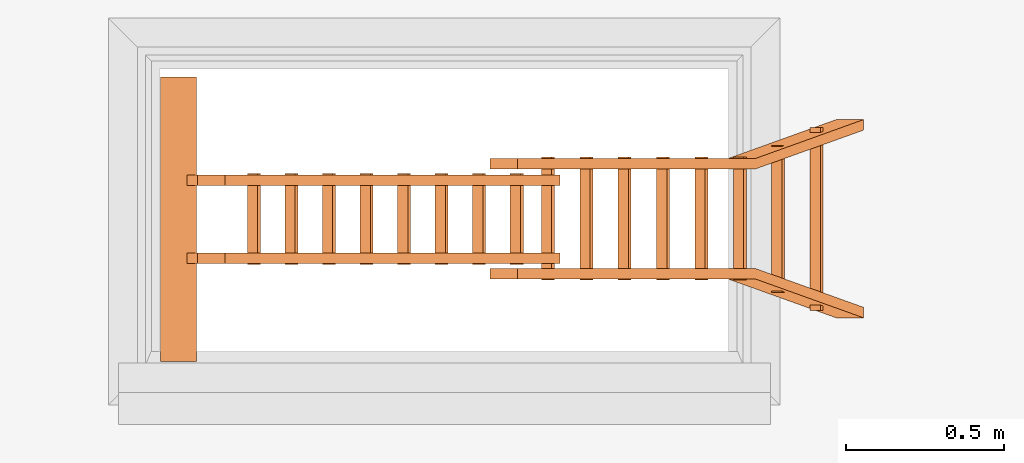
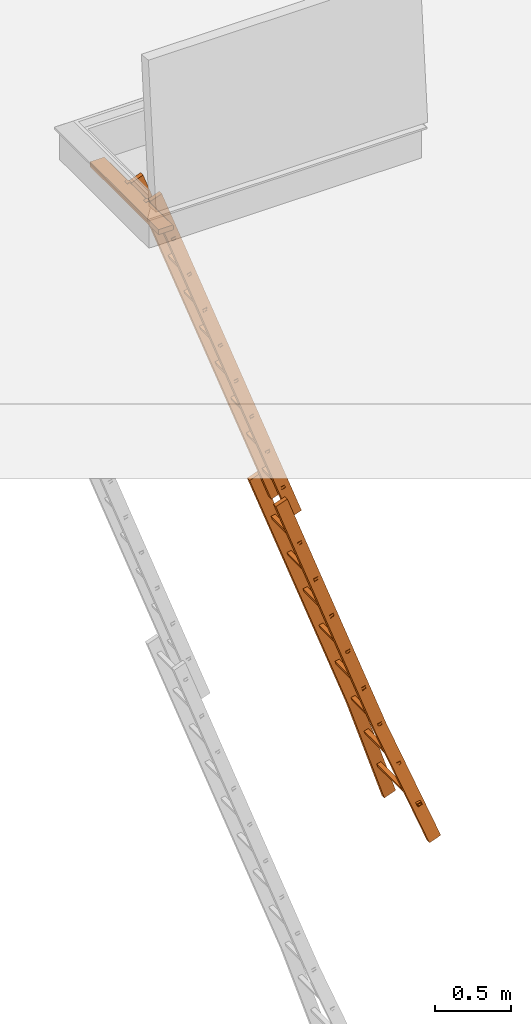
# One storey, part 2 of 28: 1 proxy, 2 openings.
"""IFC2X3 building model written with IfcOpenShell, lengths in millimetres."""

from ifc_helpers import new_model, entity, si_unit, converted_unit, derived_unit, direction, frame, frame_2d, origin, origin_2d_with_axis, place, context, subcontext, project, spatial, polyline, circle_curve, parameter, trimmed, segment, composite_curve, rectangle, outline, extrude, source, transform, mapped, type_object, type_shapes, element, save


model = new_model("IFC2X3")

# Units and contexts
model_context = context("Model", 3, precision=0.01, world=origin(), true_north=direction((6.12303176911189e-17, 1.0)))
body_context = subcontext(model_context, "Body", "Model", "MODEL_VIEW")
ifc_project = project(units=[si_unit("LENGTHUNIT", "METRE", prefix="MILLI"), si_unit("AREAUNIT", "SQUARE_METRE"), si_unit("VOLUMEUNIT", "CUBIC_METRE"), converted_unit("PLANEANGLEUNIT", "DEGREE", entity("IfcRatioMeasure", 0.0174532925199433), si_unit("PLANEANGLEUNIT", "RADIAN"), dimensions=[0, 0, 0, 0, 0, 0, 0]), si_unit("MASSUNIT", "GRAM", prefix="KILO"), derived_unit("MASSDENSITYUNIT", [(si_unit("MASSUNIT", "GRAM", prefix="KILO"), 1), (si_unit("LENGTHUNIT", "METRE"), -3)]), si_unit("TIMEUNIT", "SECOND"), si_unit("FREQUENCYUNIT", "HERTZ"), si_unit("THERMODYNAMICTEMPERATUREUNIT", "DEGREE_CELSIUS"), derived_unit("THERMALTRANSMITTANCEUNIT", [(si_unit("MASSUNIT", "GRAM", prefix="KILO"), 1), (si_unit("THERMODYNAMICTEMPERATUREUNIT", "KELVIN"), -1), (si_unit("TIMEUNIT", "SECOND"), -3)]), derived_unit("VOLUMETRICFLOWRATEUNIT", [(si_unit("LENGTHUNIT", "METRE"), 3), (si_unit("TIMEUNIT", "SECOND"), -1)]), si_unit("ELECTRICCURRENTUNIT", "AMPERE"), si_unit("ELECTRICVOLTAGEUNIT", "VOLT"), si_unit("POWERUNIT", "WATT"), si_unit("FORCEUNIT", "NEWTON", prefix="KILO"), si_unit("ILLUMINANCEUNIT", "LUX"), si_unit("LUMINOUSFLUXUNIT", "LUMEN"), si_unit("LUMINOUSINTENSITYUNIT", "CANDELA"), derived_unit("USERDEFINED", [(si_unit("MASSUNIT", "GRAM", prefix="KILO"), -1), (si_unit("LENGTHUNIT", "METRE"), -2), (si_unit("TIMEUNIT", "SECOND"), 3), (si_unit("LUMINOUSFLUXUNIT", "LUMEN"), 1)]), derived_unit("LINEARVELOCITYUNIT", [(si_unit("LENGTHUNIT", "METRE"), 1), (si_unit("TIMEUNIT", "SECOND"), -1)]), si_unit("PRESSUREUNIT", "PASCAL"), derived_unit("USERDEFINED", [(si_unit("LENGTHUNIT", "METRE"), -2), (si_unit("MASSUNIT", "GRAM", prefix="KILO"), 1), (si_unit("TIMEUNIT", "SECOND"), -2)])], contexts=[model_context])

# Site, building, storey
site_placement = place(None, origin())
site = spatial("IfcSite", under=ifc_project, at=site_placement, Name="Default", CompositionType="ELEMENT")
building_placement = place(site_placement, origin())
building = spatial("IfcBuilding", under=site, at=building_placement, CompositionType="ELEMENT")
storey_placement = place(building_placement, frame((0.0, 0.0, 4000.0)))
storey = spatial("IfcBuildingStorey", under=building, at=storey_placement, Name="Level 2", CompositionType="ELEMENT", Elevation=4000.0)

# Proxy, openings
building_element_proxy_type = type_object("IfcBuildingElementProxyType", Name="9_Topaccess_Trap_2delige1", PredefinedType="NOTDEFINED")
shared_shape = source(origin(), body_context, "Body", "SweptSolid", [
    extrude(outline(composite_curve([segment(polyline([(-20.0, -72.7589570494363), (20.0, -72.7589570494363)]), True, "CONTINUOUS"), segment(polyline([(20.0, -72.7589570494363), (20.0, 31.9980683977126)]), True, "CONTINUOUS"), segment(trimmed(circle_curve(frame_2d((10.2609571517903, 30.9957536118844), x_axis=(0.939692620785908, -0.342020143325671)), 9.79048469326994), [parameter(25.876031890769)], [parameter(105.876031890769)], True, "PARAMETER"), True, "CONTINUOUS"), segment(polyline([(10.9650368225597, 40.760888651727), (-10.9650368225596, 40.760888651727)]), True, "CONTINUOUS"), segment(trimmed(circle_curve(frame_2d((-10.2609571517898, 30.9957536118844), x_axis=(0.939692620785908, -0.342020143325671)), 9.79048469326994), [parameter(114.123968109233)], [parameter(194.123968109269)], True, "PARAMETER"), True, "CONTINUOUS"), segment(polyline([(-20.0, 31.9980683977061), (-20.0, -72.7589570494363)]), True, "CONTINUOUS")], self_intersect=False)), frame((-484.291584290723, -2.37763803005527, 9.64187826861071), z_axis=(1.0, 0.0, 0.0), x_axis=(0.0, 0.939692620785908, 0.34202014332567)), (0.0, 0.0, 1.0), 900.0),
    extrude(outline(composite_curve([segment(polyline([(-21.0941155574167, -85.4663572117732), (-18.0941155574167, -85.4663572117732)]), True, "CONTINUOUS"), segment(polyline([(-18.0941155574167, -85.4663572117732), (-18.0941155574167, 34.533772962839)]), True, "CONTINUOUS"), segment(trimmed(circle_curve(frame_2d((0.281515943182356, 34.5337729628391), x_axis=(0.0, 1.0)), 18.3756315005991), [parameter(284.219953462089)], [parameter(90.0000000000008)], True, "PARAMETER"), False, "CONTINUOUS"), segment(polyline([(18.0941155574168, 39.047654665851), (18.0941155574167, 11.7050015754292)]), True, "CONTINUOUS"), segment(polyline([(18.0941155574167, 11.7050015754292), (21.0941155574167, 11.7050015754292)]), True, "CONTINUOUS"), segment(polyline([(21.0941155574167, 11.7050015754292), (21.0941155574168, 39.4075106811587)]), True, "CONTINUOUS"), segment(trimmed(circle_curve(frame_2d((0.281515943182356, 34.5337729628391), x_axis=(0.0, 1.0)), 21.3756315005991), [parameter(283.179609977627)], [parameter(89.9999999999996)], True, "PARAMETER"), True, "CONTINUOUS"), segment(polyline([(-21.0941155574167, 34.5337729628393), (-21.0941155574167, -85.4663572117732)]), True, "CONTINUOUS")], self_intersect=False)), frame((72.0, -40.2373925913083, 36.9030783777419), z_axis=(1.0, 0.0, 0.0), x_axis=(0.0, 0.0, -1.0)), (0.0, 0.0, 1.0), 33.0),
    extrude(outline(composite_curve([segment(polyline([(-34.5337729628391, -21.0941155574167), (85.4663572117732, -21.0941155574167)]), True, "CONTINUOUS"), segment(polyline([(85.4663572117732, -21.0941155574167), (85.4663572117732, -18.0941155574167)]), True, "CONTINUOUS"), segment(polyline([(85.4663572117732, -18.0941155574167), (-34.5337729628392, -18.0941155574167)]), True, "CONTINUOUS"), segment(trimmed(circle_curve(frame_2d((-34.5337729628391, 0.281515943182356), x_axis=(-1.0, 0.0)), 18.3756315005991), [parameter(284.219953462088)], [parameter(90.0)], True, "PARAMETER"), False, "CONTINUOUS"), segment(polyline([(-39.047654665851, 18.0941155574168), (-11.7050015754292, 18.0941155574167)]), True, "CONTINUOUS"), segment(polyline([(-11.7050015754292, 18.0941155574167), (-11.7050015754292, 21.0941155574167)]), True, "CONTINUOUS"), segment(polyline([(-11.7050015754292, 21.0941155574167), (-39.407510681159, 21.0941155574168)]), True, "CONTINUOUS"), segment(trimmed(circle_curve(frame_2d((-34.5337729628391, 0.281515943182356), x_axis=(-1.0, 0.0)), 21.3756315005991), [parameter(283.179609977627)], [parameter(89.9999999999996)], True, "PARAMETER"), True, "CONTINUOUS")], self_intersect=False)), frame((-175.0, -40.2373925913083, 36.9030783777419), z_axis=(1.0, 0.0, 0.0), x_axis=(0.0, -1.0, 0.0)), (0.0, 0.0, 1.0), 33.0000000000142),
    extrude(rectangle(XDim=33.0000000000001, YDim=3099.99999999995, at=frame_2d((-3.30000000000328, 283.551511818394), x_axis=(1.0, 0.0))), frame((85.2, -1266.44848818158, 58.0), z_axis=(0.0, 0.0, 1.0), x_axis=(-1.0, 0.0, 0.0)), (0.0, 0.0, 1.0), 92.0),
    extrude(rectangle(XDim=3099.99999999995, YDim=33.0000000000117, at=frame_2d((-283.551511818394, 3.30000000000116), x_axis=(1.0, 0.0))), frame((-155.19999999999, -1266.44848818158, 58.0), z_axis=(0.0, 0.0, 1.0), x_axis=(0.0, 1.0, 0.0)), (0.0, 0.0, 1.0), 92.0),
    extrude(outline(polyline([(-11.5216143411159, -16.5000000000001), (13.8405381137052, -16.5000000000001), (13.8405381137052, 16.5), (-16.1594618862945, 16.5000000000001), (-11.5216143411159, -16.5000000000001)]), holes=[polyline([(8.84053811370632, -11.5000000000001), (-7.1751806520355, -11.5000000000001), (-10.4076198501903, 11.5000000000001), (8.84053811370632, 11.5), (8.84053811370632, -11.5000000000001)])]), frame((-227.077291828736, -3293.01909964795, 39.0843884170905), z_axis=(1.0, 0.0, 0.0), x_axis=(0.0, -1.0, 0.0)), (0.0, 0.0, 1.0), 389.077291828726),
    extrude(outline(polyline([(-11.5216143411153, -16.5000000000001), (13.8405381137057, -16.5000000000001), (13.8405381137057, 16.5), (-16.159461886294, 16.5000000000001), (-11.5216143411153, -16.5000000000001)]), holes=[polyline([(8.84053811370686, -11.5000000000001), (-7.17518065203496, -11.5000000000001), (-10.4076198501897, 11.5000000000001), (8.84053811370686, 11.5), (8.84053811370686, -11.5000000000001)])]), frame((-227.077291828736, -3648.01909964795, 39.0843884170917), z_axis=(1.0, 0.0, 0.0), x_axis=(0.0, -1.0, 0.0)), (0.0, 0.0, 1.0), 389.077291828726),
    extrude(outline(polyline([(-11.5216143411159, -16.5000000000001), (13.8405381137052, -16.5000000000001), (13.8405381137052, 16.5), (-16.1594618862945, 16.5000000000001), (-11.5216143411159, -16.5000000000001)]), holes=[polyline([(8.84053811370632, -11.5000000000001), (-7.1751806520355, -11.5000000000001), (-10.4076198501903, 11.5000000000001), (8.84053811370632, 11.5), (8.84053811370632, -11.5000000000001)])]), frame((-227.077291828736, -4003.01909964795, 39.0843884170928), z_axis=(1.0, 0.0, 0.0), x_axis=(0.0, -1.0, 0.0)), (0.0, 0.0, 1.0), 389.077291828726),
    extrude(outline(polyline([(-11.5216143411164, -16.5000000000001), (13.8405381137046, -16.5000000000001), (13.8405381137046, 16.5), (-16.159461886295, 16.5000000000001), (-11.5216143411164, -16.5000000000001)]), holes=[polyline([(8.84053811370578, -11.5000000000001), (-7.17518065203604, -11.5000000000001), (-10.4076198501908, 11.5000000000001), (8.84053811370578, 11.5), (8.84053811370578, -11.5000000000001)])]), frame((-227.077291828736, -4358.01909964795, 39.0843884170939), z_axis=(1.0, 0.0, 0.0), x_axis=(0.0, -1.0, 0.0)), (0.0, 0.0, 1.0), 389.077291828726),
    extrude(outline(polyline([(-11.5216143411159, -16.5000000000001), (13.8405381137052, -16.5000000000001), (13.8405381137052, 16.5), (-16.1594618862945, 16.5000000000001), (-11.5216143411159, -16.5000000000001)]), holes=[polyline([(8.84053811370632, -11.5000000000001), (-7.1751806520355, -11.5000000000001), (-10.4076198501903, 11.5000000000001), (8.84053811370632, 11.5), (8.84053811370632, -11.5000000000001)])]), frame((-227.077291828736, -4713.01909964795, 39.0843884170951), z_axis=(1.0, 0.0, 0.0), x_axis=(0.0, -1.0, 0.0)), (0.0, 0.0, 1.0), 389.077291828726),
    extrude(outline(polyline([(-11.5216143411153, -16.5000000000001), (13.8405381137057, -16.5000000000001), (13.8405381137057, 16.5), (-16.159461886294, 16.5000000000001), (-11.5216143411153, -16.5000000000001)]), holes=[polyline([(8.84053811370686, -11.5000000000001), (-7.17518065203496, -11.5000000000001), (-10.4076198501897, 11.5000000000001), (8.84053811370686, 11.5), (8.84053811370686, -11.5000000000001)])]), frame((-227.077291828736, -5068.01909964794, 39.0843884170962), z_axis=(1.0, 0.0, 0.0), x_axis=(0.0, -1.0, 0.0)), (0.0, 0.0, 1.0), 389.077291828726),
    extrude(outline(polyline([(-11.5216143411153, -16.5000000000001), (13.8405381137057, -16.5000000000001), (13.8405381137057, 16.5), (-16.159461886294, 16.5000000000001), (-11.5216143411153, -16.5000000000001)]), holes=[polyline([(8.84053811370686, -11.5000000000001), (-7.17518065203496, -11.5000000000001), (-10.4076198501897, 11.5000000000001), (8.84053811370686, 11.5), (8.84053811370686, -11.5000000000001)])]), frame((-266.000121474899, -5423.01909964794, 39.0843884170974), z_axis=(1.0, 0.0, 0.0), x_axis=(0.0, -1.0, 0.0)), (0.0, 0.0, 1.0), 465.000121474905),
    extrude(outline(polyline([(-11.5216143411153, -16.5000000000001), (13.8405381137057, -16.5000000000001), (13.8405381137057, 16.5), (-16.159461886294, 16.5000000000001), (-11.5216143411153, -16.5000000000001)]), holes=[polyline([(8.84053811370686, -11.5000000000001), (-7.17518065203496, -11.5000000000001), (-10.4076198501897, 11.5000000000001), (8.84053811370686, 11.5), (8.84053811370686, -11.5000000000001)])]), frame((-323.951711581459, -5778.01909964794, 39.0843884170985), z_axis=(1.0, 0.0, 0.0), x_axis=(0.0, -1.0, 0.0)), (0.0, 0.0, 1.0), 580.345535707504),
    extrude(outline(polyline([(388.026880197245, -105.667736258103), (1398.54073073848, -105.667736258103), (1402.59262124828, -72.6677362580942), (392.048568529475, -72.9137132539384), (-1788.59355619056, 194.835472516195), (-1792.61524452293, 162.081449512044), (388.026880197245, -105.667736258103)])), frame((181.59152386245, -4696.74475844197, -12.0), z_axis=(0.0, 0.0, 1.0), x_axis=(0.121869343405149, -0.992546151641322, 0.0)), (0.0, 0.0, 1.0), 92.0),
    extrude(outline(polyline([(390.379133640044, 72.7087324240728), (1402.92650822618, 72.7087324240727), (1398.87461771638, 105.708732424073), (388.360767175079, 105.708732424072), (-1792.28135754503, -162.040453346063), (-1788.25966921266, -194.794476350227), (390.379133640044, 72.7087324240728)])), frame((-247.591523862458, -4696.40836403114, -12.0), z_axis=(0.0, 0.0, 1.0), x_axis=(-0.121869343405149, -0.992546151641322, 0.0)), (0.0, 0.0, 1.0), 92.0),
    extrude(outline(polyline([(-11.5216143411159, -16.5), (13.8405381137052, -16.5), (13.8405381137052, 16.5), (-16.1594618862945, 16.5000000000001), (-11.5216143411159, -16.5)]), holes=[polyline([(8.84053811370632, -11.5), (-7.17518065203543, -11.5), (-10.4076198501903, 11.5), (8.84053811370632, 11.5), (8.84053811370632, -11.5)])]), frame((-178.583168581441, -401.863211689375, 101.084388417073), z_axis=(1.0, 0.0, 0.0), x_axis=(0.0, -1.0, 0.0)), (0.0, 0.0, 1.0), 288.583168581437),
    extrude(outline(polyline([(-11.5216143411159, -16.5), (13.8405381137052, -16.5), (13.8405381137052, 16.5), (-16.1594618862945, 16.5000000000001), (-11.5216143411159, -16.5)]), holes=[polyline([(8.84053811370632, -11.5), (-7.1751806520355, -11.5), (-10.4076198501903, 11.5000000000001), (8.84053811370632, 11.5), (8.84053811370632, -11.5)])]), frame((-178.583168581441, -749.363211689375, 101.084388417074), z_axis=(1.0, 0.0, 0.0), x_axis=(0.0, -1.0, 0.0)), (0.0, 0.0, 1.0), 288.583168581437),
    extrude(outline(polyline([(-11.5216143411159, -16.5), (13.8405381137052, -16.5), (13.8405381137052, 16.5), (-16.1594618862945, 16.5000000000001), (-11.5216143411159, -16.5)]), holes=[polyline([(8.84053811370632, -11.5), (-7.1751806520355, -11.5), (-10.4076198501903, 11.5), (8.84053811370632, 11.5), (8.84053811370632, -11.5)])]), frame((-178.583168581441, -1096.86321168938, 101.084388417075), z_axis=(1.0, 0.0, 0.0), x_axis=(0.0, -1.0, 0.0)), (0.0, 0.0, 1.0), 288.583168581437),
    extrude(outline(polyline([(-11.5216143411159, -16.5), (13.8405381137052, -16.5), (13.8405381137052, 16.5), (-16.1594618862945, 16.5000000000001), (-11.5216143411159, -16.5)]), holes=[polyline([(8.84053811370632, -11.5), (-7.1751806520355, -11.5), (-10.4076198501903, 11.5000000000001), (8.84053811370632, 11.5), (8.84053811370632, -11.5)])]), frame((-178.583168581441, -1444.36321168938, 101.084388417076), z_axis=(1.0, 0.0, 0.0), x_axis=(0.0, -1.0, 0.0)), (0.0, 0.0, 1.0), 288.583168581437),
    extrude(outline(polyline([(-11.5216143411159, -16.5), (13.8405381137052, -16.5), (13.8405381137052, 16.5), (-16.1594618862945, 16.5000000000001), (-11.5216143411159, -16.5)]), holes=[polyline([(8.84053811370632, -11.5), (-7.1751806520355, -11.5), (-10.4076198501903, 11.5000000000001), (8.84053811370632, 11.5), (8.84053811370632, -11.5)])]), frame((-178.583168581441, -1791.86321168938, 101.084388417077), z_axis=(1.0, 0.0, 0.0), x_axis=(0.0, -1.0, 0.0)), (0.0, 0.0, 1.0), 288.583168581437),
    extrude(outline(polyline([(-11.5216143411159, -16.5), (13.8405381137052, -16.5), (13.8405381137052, 16.5), (-16.1594618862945, 16.5000000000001), (-11.5216143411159, -16.5)]), holes=[polyline([(8.84053811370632, -11.5), (-7.1751806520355, -11.5), (-10.4076198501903, 11.5000000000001), (8.84053811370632, 11.5), (8.84053811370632, -11.5)])]), frame((-178.583168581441, -2139.36321168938, 101.084388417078), z_axis=(1.0, 0.0, 0.0), x_axis=(0.0, -1.0, 0.0)), (0.0, 0.0, 1.0), 288.583168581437),
    extrude(outline(polyline([(-11.5216143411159, -16.5), (13.8405381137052, -16.5), (13.8405381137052, 16.5), (-16.1594618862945, 16.5000000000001), (-11.5216143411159, -16.5)]), holes=[polyline([(8.84053811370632, -11.5), (-7.1751806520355, -11.5), (-10.4076198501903, 11.5), (8.84053811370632, 11.5), (8.84053811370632, -11.5)])]), frame((-178.583168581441, -2486.86321168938, 101.084388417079), z_axis=(1.0, 0.0, 0.0), x_axis=(0.0, -1.0, 0.0)), (0.0, 0.0, 1.0), 288.583168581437),
    extrude(outline(polyline([(-11.5216143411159, -16.5), (13.8405381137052, -16.5), (13.8405381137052, 16.5), (-16.1594618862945, 16.5000000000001), (-11.5216143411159, -16.5)]), holes=[polyline([(8.84053811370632, -11.5), (-7.1751806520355, -11.5), (-10.4076198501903, 11.5000000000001), (8.84053811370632, 11.5), (8.84053811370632, -11.5)])]), frame((-178.583168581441, -2834.36321168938, 101.08438841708), z_axis=(1.0, 0.0, 0.0), x_axis=(0.0, -1.0, 0.0)), (0.0, 0.0, 1.0), 288.583168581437),
])
type_shapes(building_element_proxy_type, [shared_shape])
proxy_placement = place(storey_placement, frame((-12916.4217363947, 5740.53699124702, 411.34251098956), z_axis=(0.939692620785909, 0.0, 0.342020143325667), x_axis=(0.0, 1.0, 0.0)))
proxy = element("IfcBuildingElementProxy", 1, at=proxy_placement, inside=storey, type_object=building_element_proxy_type, Name="9_Topaccess_Trap_2delige1:9_Topaccess_Trap_2delige1", ObjectType="9_Topaccess_Trap_2delige1", context=body_context, shape_type="MappedRepresentation", body=[
    mapped(shared_shape, transform((0.0, 0.0, 0.0), scale=1.0)),
])
opening_1_placement = place(storey_placement, frame((-12916.4217363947, 5740.53699124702, 4411.34251098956), z_axis=(0.321393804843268, 0.939692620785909, 0.11697777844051), x_axis=(-0.342020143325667, 0.0, 0.939692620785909)))
element("IfcOpeningElement", 2, at=opening_1_placement, cuts=proxy, Name="9_Topaccess_Trap_2delige1:9_Topaccess_Trap_2delige1:1", ObjectType="Opening", context=body_context, shape_type="SweptSolid", body=[
    extrude(rectangle(XDim=42.5298592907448, YDim=59.0000000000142, at=frame_2d((0.0, 3.37507799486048e-14), x_axis=(1.0, 0.0))), frame((-20.7510961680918, -3703.01313199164, -1516.45873407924), z_axis=(0.939692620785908, 0.321393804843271, 0.116977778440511), x_axis=(0.34202014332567, -0.883022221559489, -0.321393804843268)), (0.0, 0.0, 1.0), 40.0),
])
opening_2_placement = place(storey_placement, frame((-12916.4217363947, 5740.53699124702, 4411.34251098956), z_axis=(0.321393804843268, 0.939692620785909, 0.11697777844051), x_axis=(-0.342020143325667, 0.0, 0.939692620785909)))
element("IfcOpeningElement", 3, at=opening_2_placement, cuts=proxy, Name="9_Topaccess_Trap_2delige1:9_Topaccess_Trap_2delige1:2", ObjectType="Opening", context=body_context, shape_type="SweptSolid", body=[
    extrude(rectangle(XDim=42.5298592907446, YDim=59.0000000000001, at=origin_2d_with_axis()), frame((-20.7510961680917, -3787.49210739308, -1284.35465674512), z_axis=(0.939692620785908, 0.321393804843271, 0.116977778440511), x_axis=(0.34202014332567, -0.883022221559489, -0.321393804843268)), (0.0, 0.0, 1.0), 40.0),
])

save(model, "model.ifc")
